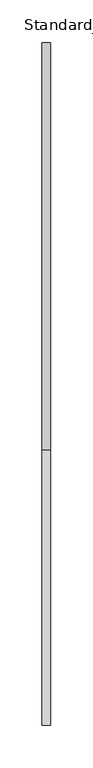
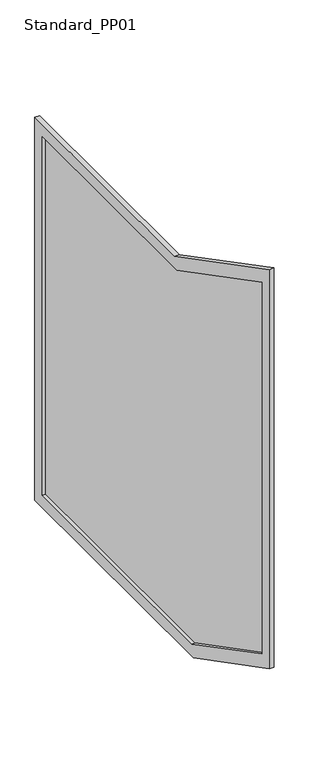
"""IFC4 building model written with IfcOpenShell, lengths in millimetres: railing geometry, Baluster-Landing-Panel-VIVA-STRUC-Upper : Standard_PP01."""

from ifc_helpers import new_model, si_unit, frame, origin, place, context, project, spatial, polyline, outline, extrude, source, transform, mapped, element, save


def standard_pp01_0fd2b1c0(model_context):
    return source(origin(), model_context, "Body", "SweptSolid", [
        extrude(outline(polyline([(-206.7060559, 161.8753782), (-719.6364392, 161.8753782), (-959.3372584, 286.6557267), (-959.3372584, 1063.4295139), (-666.564764, 911.0218), (-206.7060559, 911.0218), (-206.7060559, 161.8753782)])), frame((62.2681, 0.0, 0.0), z_axis=(1.0, 0.0, 0.0), x_axis=(0.0, 1.0, 0.0)), (0.0, 0.0, 1.0), 2.9972),
        extrude(outline(polyline([(-984.7372584, 271.2426283), (-984.7372584, 1105.2874184), (-660.3494236, 936.4218), (-181.3060559, 936.4218), (-181.3060559, 136.4753782), (-725.8517797, 136.4753782), (-984.7372584, 271.2426283)]), holes=[polyline([(-206.7060559, 911.0218), (-666.564764, 911.0218), (-959.3372584, 1063.4295139), (-959.3372584, 286.6557267), (-719.6364392, 161.8753782), (-206.7060559, 161.8753782), (-206.7060559, 911.0218)])]), frame((55.7403, 0.0, 0.0), z_axis=(1.0, 0.0, 0.0), x_axis=(0.0, 1.0, 0.0)), (0.0, 0.0, 1.0), 9.525),
    ])


if __name__ == "__main__":
    model = new_model("IFC4")
    model_context = context("Model", 3, world=origin())
    ifc_project = project(units=[si_unit("LENGTHUNIT", "METRE", prefix="MILLI")], contexts=[model_context])
    site = spatial("IfcSite", under=ifc_project)
    building = spatial("IfcBuilding", under=site)
    placement = place(None, origin())
    standard_pp01_shape = standard_pp01_0fd2b1c0(model_context)
    element("IfcRailing", 1, ObjectType="Baluster-Landing-Panel-VIVA-STRUC-Upper : Standard_PP01", at=placement, inside=building, context=model_context, shape_type="MappedRepresentation", body=[
        mapped(standard_pp01_shape, transform((0.0, 0.0, 0.0), x_axis=(1.0, 0.0, 0.0), y_axis=(0.0, 1.0, 0.0), z_axis=(0.0, 0.0, 1.0))),
    ])
    save(model, "model.ifc")
